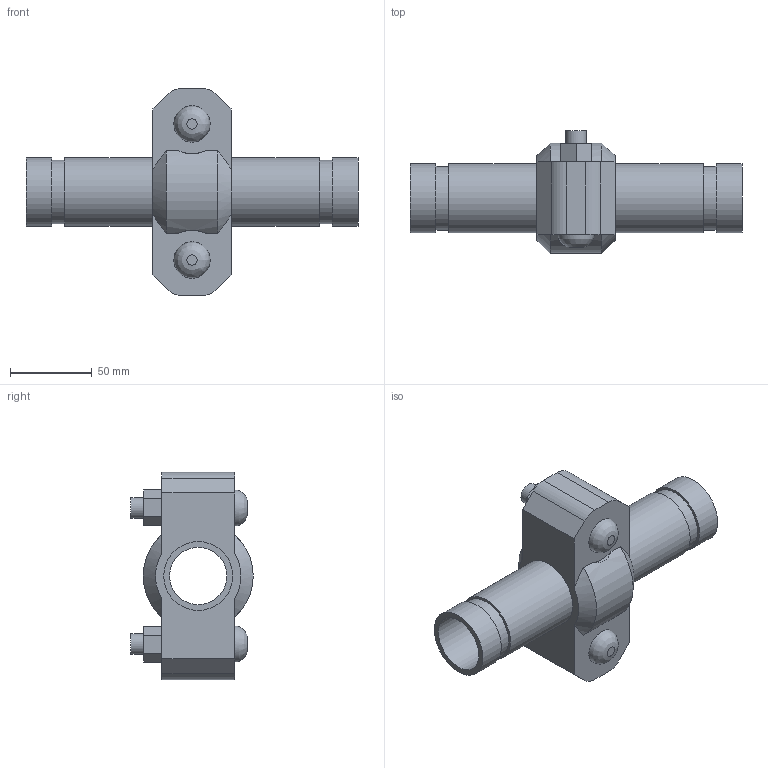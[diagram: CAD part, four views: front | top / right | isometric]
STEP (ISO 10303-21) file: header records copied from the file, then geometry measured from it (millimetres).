
FILE_DESCRIPTION(/* description */ ('VIC EXPANSION JOINT 1 COUPLING COMPRESSED STYLE 155 (OGS)','CAx-IF Rec.Pracs.---Representation and Presentation of Product Manufacturing Information (PMI)---4.0---2014-10-13'),/* implementation_level */ '2;1');
FILE_NAME(/* name */ 'C:\Users\kkamble\AppData\Roaming\Autodesk\ApplicationPlugins\Victaulic.Temp\A74\Victaulic_IPS_Expansion Joint_Compressed_1 Coupling_Style 155 (OGS)_1.25 (32).stp',/* time_stamp */ '2021-06-27T00:14:04+02:00',/* author */ ('kkamble'),/* organization */ ('Victaulic'),/* preprocessor_version */ 'ST-DEVELOPER v17.2',/* originating_system */ 'Autodesk Inventor 2019',/* authorisation */ '');
FILE_SCHEMA (('AP242_MANAGED_MODEL_BASED_3D_ENGINEERING_MIM_LF { 1 0 10303 442 1 1 4 }'));
Length unit declared in the file: inch
Products named in the file (3): 155-01.25; Nipple-01.25; 077-01.25
Assembly tree (3 placements, depth 2):
  155-01.25
    Nipple-01.25  x2
    077-01.25
Bounding box: 203.2 x 74.93 x 127 mm (x, y, z)
Volume: 311488.6 mm3; surface area: 93299 mm2
Topology: 3 solids, 5 shells, 81 faces, 199 edges, 142 vertices
Faces by surface type: plane 46, cylinder 29, cone 4, bspline 2
Full cylindrical faces by diameter (mm): 12.7 x4, 14.605 x2, 35.052 x2, 38.989 x4, 42.164 x7
Entity records: 2375 total; most frequent: CARTESIAN_POINT 466, DIRECTION 371, ORIENTED_EDGE 338, EDGE_CURVE 169, AXIS2_PLACEMENT_3D 141, VERTEX_POINT 118, LINE 89, VECTOR 89
